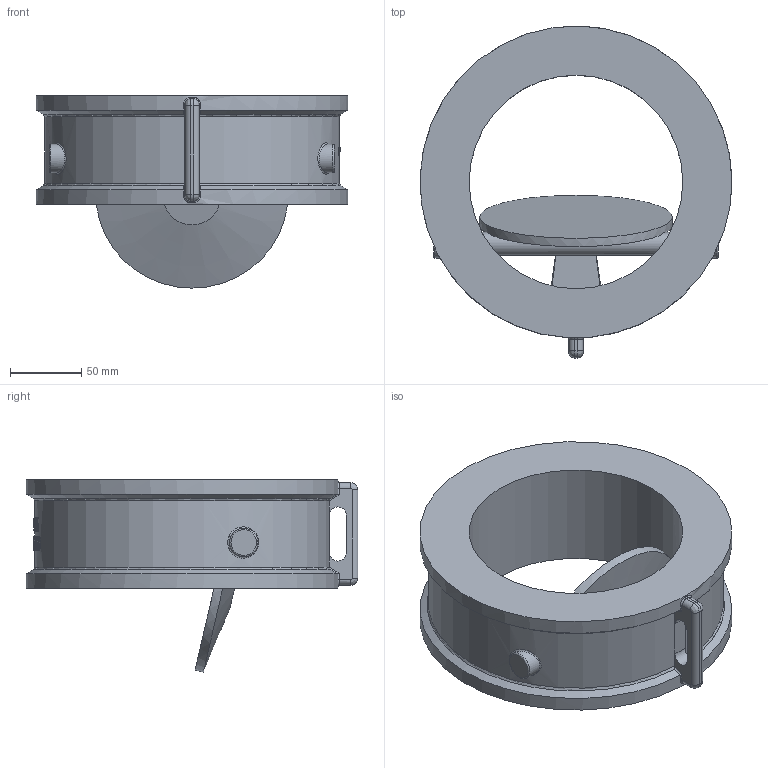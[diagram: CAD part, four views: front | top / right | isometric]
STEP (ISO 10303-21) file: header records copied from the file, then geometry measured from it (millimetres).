
FILE_DESCRIPTION( ( 'Unknown' ), '1' );
FILE_NAME( 'C:/Documents and Settings/Klaus/My Documents/Rootsi BPS 3D, Klaus/BPS 6530 tilting disc check valve/STEP/BPS6530150 tilting disc check valve DN150.stp', 'Unknown', ( 'Unknown' ), ( 'Unknown' ), 'PSStep 10.1', 'Unknown', ' ' );
FILE_SCHEMA( ( 'AUTOMOTIVE_DESIGN { 1 0 10303 214 1 1 1 1 }' ) );
Length unit declared in the file: millimetre
Products named in the file (1): 1
Bounding box: 218.96 x 233 x 135 mm (x, y, z)
Volume: 1490865.1 mm3; surface area: 169162.5 mm2
Topology: 1 solids, 1 shells, 243 faces, 606 edges, 396 vertices
Faces by surface type: bspline 92, plane 88, cylinder 53, torus 6, cone 4
Full cylindrical faces by diameter (mm): 16 x1, 135 x1, 150 x1, 219 x2
Entity records: 21888 total; most frequent: CARTESIAN_POINT 15413, ORIENTED_EDGE 1170, EDGE_CURVE 585, B_SPLINE_CURVE_WITH_KNOTS 482, DIRECTION 465, VERTEX_POINT 389, EDGE_LOOP 296, FACE_OUTER_BOUND 256
